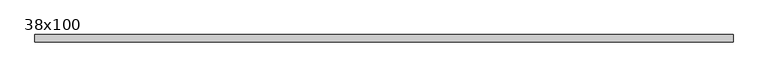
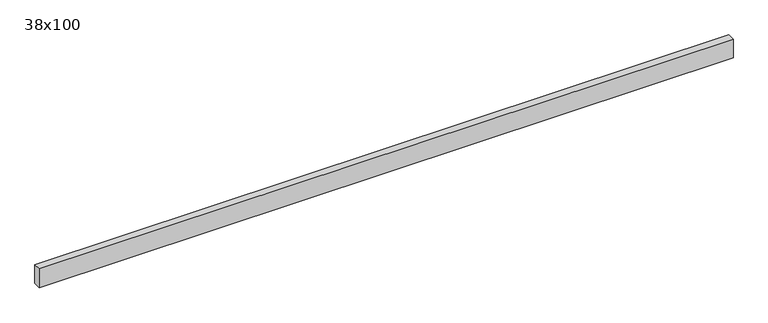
"""IFC4 building model written with IfcOpenShell, lengths in millimetres: beam geometry, Poutre - Bois de construction de dimensions courantes : 38x100."""

from ifc_helpers import new_model, si_unit, frame, origin, place, context, project, spatial, polyline, outline, extrude, source, transform, mapped, element, save


def beam_38x100_8de88c10(model_context):
    return source(origin(), model_context, "Body", "SweptSolid", [
        extrude(outline(polyline([(1763.0, 19.05), (1763.0, -19.05), (-1763.0, -19.05), (-1763.0, 19.05), (1763.0, 19.05)])), frame((0.0, 0.0, -50.0), z_axis=(0.0, 0.0, 1.0), x_axis=(1.0, 0.0, 0.0)), (0.0, 0.0, 1.0), 100.0),
    ])


if __name__ == "__main__":
    model = new_model("IFC4")
    model_context = context("Model", 3, world=origin())
    ifc_project = project(units=[si_unit("LENGTHUNIT", "METRE", prefix="MILLI")], contexts=[model_context])
    site = spatial("IfcSite", under=ifc_project)
    building = spatial("IfcBuilding", under=site)
    placement = place(None, origin())
    beam_38x100_shape = beam_38x100_8de88c10(model_context)
    element("IfcBeam", 1, ObjectType="Poutre - Bois de construction de dimensions courantes : 38x100", at=placement, inside=building, context=model_context, shape_type="MappedRepresentation", body=[
        mapped(beam_38x100_shape, transform((0.0, 0.0, 0.0), x_axis=(1.0, 0.0, 0.0), y_axis=(0.0, 1.0, 0.0), z_axis=(0.0, 0.0, 1.0))),
    ])
    save(model, "model.ifc")
